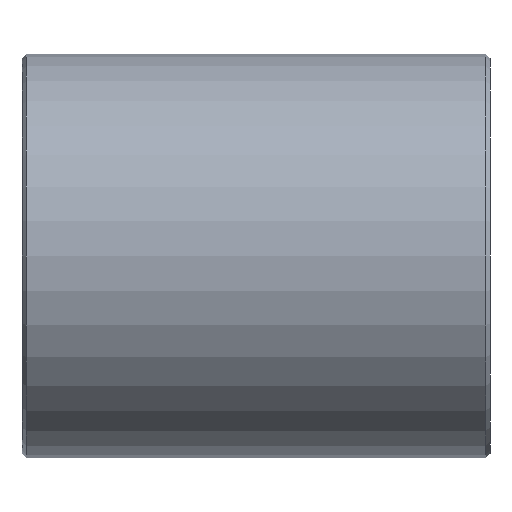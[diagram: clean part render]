
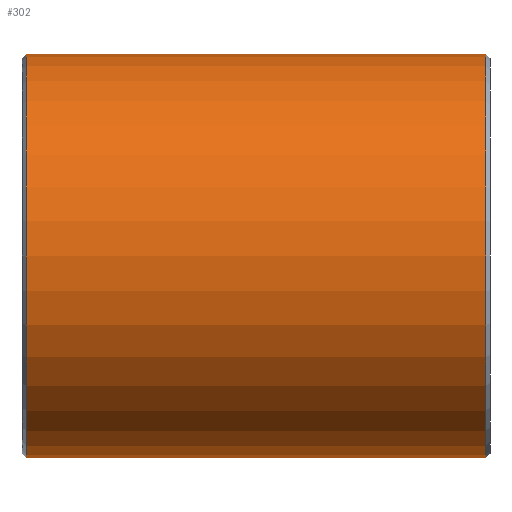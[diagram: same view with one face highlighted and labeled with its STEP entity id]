
A CAD part, front view. The second image highlights one B-rep face of the part: STEP entity #302.
In plain terms, the highlighted cylindrical face has radius 50 mm (diameter 100 mm), a partial arc.
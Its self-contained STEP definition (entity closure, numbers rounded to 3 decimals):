
#17 = AXIS2_PLACEMENT_3D ( 'NONE', #100, #232, #461 ) ;
#24 = DIRECTION ( 'NONE',  ( -1., 0., 0. ) ) ;
#27 = DIRECTION ( 'NONE',  ( -1., 0., 0. ) ) ;
#33 = EDGE_CURVE ( 'NONE', #49, #37, #328, .T. ) ;
#37 = VERTEX_POINT ( 'NONE', #335 ) ;
#38 = DIRECTION ( 'NONE',  ( -1., 0., 0. ) ) ;
#45 = EDGE_CURVE ( 'NONE', #37, #377, #341, .T. ) ;
#49 = VERTEX_POINT ( 'NONE', #360 ) ;
#56 = CARTESIAN_POINT ( 'NONE',  ( 115., 0., 0. ) ) ;
#69 = ORIENTED_EDGE ( 'NONE', *, *, #395, .T. ) ;
#79 = CARTESIAN_POINT ( 'NONE',  ( 115., 0., -50. ) ) ;
#85 = ORIENTED_EDGE ( 'NONE', *, *, #33, .T. ) ;
#92 = VERTEX_POINT ( 'NONE', #79 ) ;
#100 = CARTESIAN_POINT ( 'NONE',  ( 1., 0., 0. ) ) ;
#107 = DIRECTION ( 'NONE',  ( 0., 0., 1. ) ) ;
#127 = CIRCLE ( 'NONE', #271, 50. ) ;
#129 = DIRECTION ( 'NONE',  ( 0., 0., 1. ) ) ;
#232 = DIRECTION ( 'NONE',  ( 1., 0., 0. ) ) ;
#233 = AXIS2_PLACEMENT_3D ( 'NONE', #488, #24, #107 ) ;
#241 = ORIENTED_EDGE ( 'NONE', *, *, #45, .T. ) ;
#254 = ORIENTED_EDGE ( 'NONE', *, *, #312, .F. ) ;
#271 = AXIS2_PLACEMENT_3D ( 'NONE', #56, #493, #129 ) ;
#272 = CYLINDRICAL_SURFACE ( 'NONE', #233, 50. ) ;
#280 = CARTESIAN_POINT ( 'NONE',  ( 0., 0., 50. ) ) ;
#301 = CARTESIAN_POINT ( 'NONE',  ( 1., 0., -50. ) ) ;
#302 = ADVANCED_FACE ( 'NONE', ( #480 ), #272, .T. ) ;
#312 = EDGE_CURVE ( 'NONE', #92, #377, #470, .T. ) ;
#314 = VECTOR ( 'NONE', #27, 1000. ) ;
#324 = EDGE_LOOP ( 'NONE', ( #254, #69, #85, #241 ) ) ;
#328 = LINE ( 'NONE', #280, #314 ) ;
#335 = CARTESIAN_POINT ( 'NONE',  ( 1., 0., 50. ) ) ;
#341 = CIRCLE ( 'NONE', #17, 50. ) ;
#360 = CARTESIAN_POINT ( 'NONE',  ( 115., 0., 50. ) ) ;
#364 = VECTOR ( 'NONE', #38, 1000. ) ;
#377 = VERTEX_POINT ( 'NONE', #301 ) ;
#395 = EDGE_CURVE ( 'NONE', #92, #49, #127, .T. ) ;
#408 = CARTESIAN_POINT ( 'NONE',  ( 0., 0., -50. ) ) ;
#461 = DIRECTION ( 'NONE',  ( 0., 0., -1. ) ) ;
#470 = LINE ( 'NONE', #408, #364 ) ;
#480 = FACE_OUTER_BOUND ( 'NONE', #324, .T. ) ;
#488 = CARTESIAN_POINT ( 'NONE',  ( 0., 0., 0. ) ) ;
#493 = DIRECTION ( 'NONE',  ( -1., 0., 0. ) ) ;
